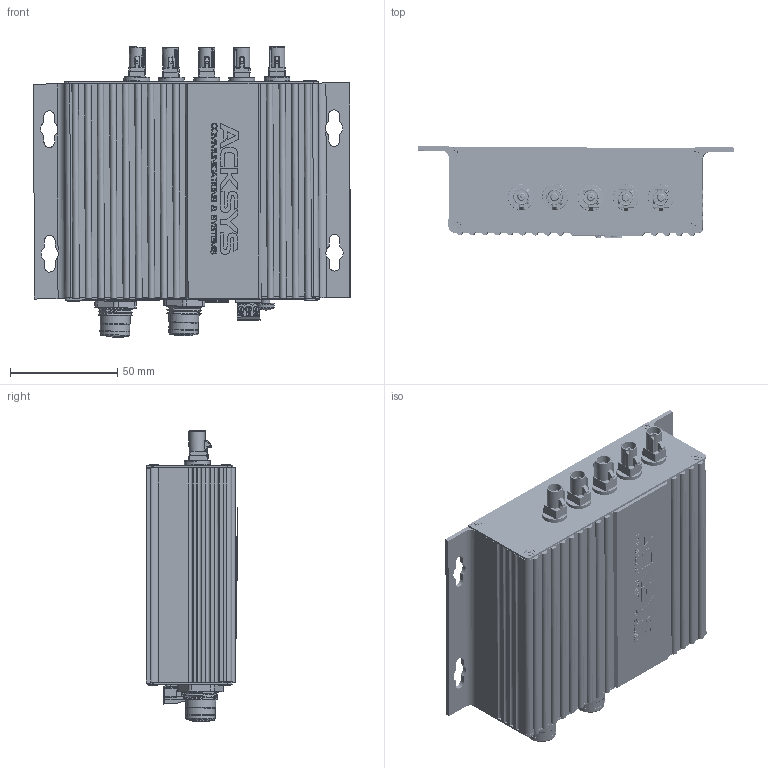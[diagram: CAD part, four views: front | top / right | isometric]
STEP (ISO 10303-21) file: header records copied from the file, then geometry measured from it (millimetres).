
FILE_DESCRIPTION(/* description */ (''),/* implementation_level */ '2;1');
FILE_NAME(/* name */ 'C:\Users\LCROCE\Documents\Temp\AirWan-M12_3d.stp',/* time_stamp */ '2023-03-01T13:55:53+01:00',/* author */ ('LCROCE'),/* organization */ ('Unknown'),/* preprocessor_version */ 'ST-DEVELOPER v18.1',/* originating_system */ 'Autodesk Inventor 2022',/* authorisation */ ' ');
FILE_SCHEMA (('CONFIG_CONTROL_DESIGN'));
Products named in the file (52): AirWan-M12_3d; YONGU-H30-147W41H-SK; YONGU-H30-147W41H-DK; GB-T 819.1-2000 M2.5X6; mc_1.5-3-g-3.5_p26$1$ATF; mc_1.5-3-g-3.5_p26; 115S_SHORT_TRAY_ASM; MOLDING_AF0_39; CONTACT_AF0_194_ASM_ASM; MANIFOLD_SOLID_BREP_12055; MANIFOLD_SOLID_BREP_13941; MANIFOLD_SOLID_BREP_15695; MANIFOLD_SOLID_BREP_24524; MANIFOLD_SOLID_BREP_26839; MANIFOLD_SOLID_BREP_29121; MANIFOLD_SOLID_BREP_31205; MANIFOLD_SOLID_BREP_34872; MANIFOLD_SOLID_BREP_35415; MANIFOLD_SOLID_BREP_35958; MANIFOLD_SOLID_BREP_37716; CONTACT000_12; SHELL_AF0_28; LOCK_1; PCB_AF0_1; PUSHBAR; CAM; 115S-ACA3_ASM; 115S-ACA3; NANO_SIM_1; Assem1$1$ATF; 6913611000xx_CAGE$1$ATF; 6913611000xx_VIS$1$ATF; 6913611000xx_PIN$1$ATF; 691364100003_M$1$ATF; 691364100003$1$ATF; test; Face avant1_AirWan_M12; M12F_4pts; face arrière3; face arrière2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
Assembly tree (74 placements, depth 5):
  AirWan-M12_3d
    YONGU-H30-147W41H-SK
    YONGU-H30-147W41H-DK
    GB-T 819.1-2000 M2.5X6  x8
    mc_1.5-3-g-3.5_p26$1$ATF
      mc_1.5-3-g-3.5_p26
    115S_SHORT_TRAY_ASM
      MOLDING_AF0_39
      CONTACT_AF0_194_ASM_ASM
        MANIFOLD_SOLID_BREP_12055
        MANIFOLD_SOLID_BREP_13941
        MANIFOLD_SOLID_BREP_15695
        MANIFOLD_SOLID_BREP_24524
        MANIFOLD_SOLID_BREP_26839
        MANIFOLD_SOLID_BREP_29121
        MANIFOLD_SOLID_BREP_31205
        MANIFOLD_SOLID_BREP_34872
        MANIFOLD_SOLID_BREP_35415
        MANIFOLD_SOLID_BREP_35958
        MANIFOLD_SOLID_BREP_37716
        CONTACT000_12  x6
      SHELL_AF0_28
      LOCK_1
      PCB_AF0_1
      PUSHBAR  x2
      CAM  x2
      115S-ACA3_ASM
        115S-ACA3
        NANO_SIM_1
    Assem1$1$ATF
      6913611000xx_CAGE$1$ATF  x3
      6913611000xx_VIS$1$ATF  x3
      6913611000xx_PIN$1$ATF  x3
      691364100003_M$1$ATF
      691364100003$1$ATF
    test
    Face avant1_AirWan_M12
    M12F_4pts  x2
    face arrière3
      face arrière2
        KI110-5N1NNT4W  x2
          3
          3-1
        KC110-5N1NNT4W
          1
          1-2
        KD110-5N1NNT4W  x2
          2
          2-2
        Pièce78
    serigraphie_acksys
    Pièce82
Bounding box: 147.37 x 42.6 x 135.11 mm (x, y, z)
Volume: 97681.9 mm3; surface area: 116669.5 mm2
Topology: 107 solids, 661 shells, 7327 faces, 20653 edges, 14233 vertices
Faces by surface type: plane 5165, cylinder 1457, bspline 295, cone 221, torus 127, sphere 62
Full cylindrical faces by diameter (mm): 0.35 x1, 0.6 x2, 0.7 x1, 0.75 x1, 0.9 x12, 0.94 x2, 1 x8, 1.2 x18, 1.4 x9, 1.45 x3, 1.5 x3, 1.68 x2, 1.7 x3, 1.9 x9, 2.1 x3, 2.15 x10, 2.5 x8, 2.6 x5, 2.8 x12, 3 x13, 3.394 x5, 3.6 x1, 3.7 x10, 4 x1, 4.4 x8, 4.65 x5, 5 x8, 6.295 x3, 6.3 x7, 7.4 x5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
Entity records: 225657 total; most frequent: CARTESIAN_POINT 64444, ORIENTED_EDGE 31772, DIRECTION 31643, EDGE_CURVE 17314, LINE 13827, VECTOR 13827, VERTEX_POINT 12179, AXIS2_PLACEMENT_3D 8908
